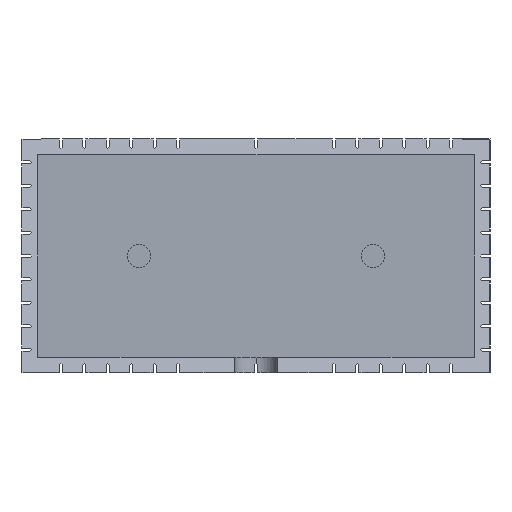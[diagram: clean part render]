
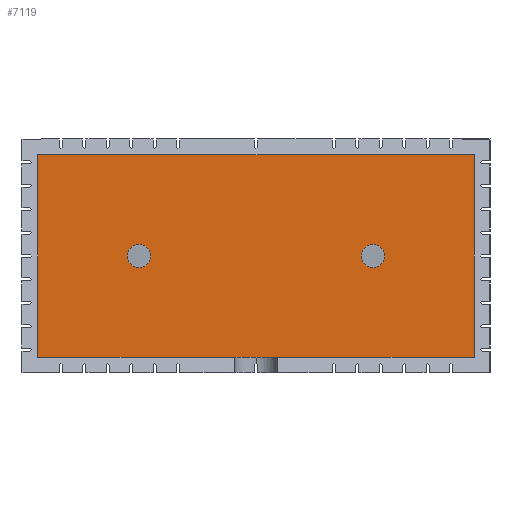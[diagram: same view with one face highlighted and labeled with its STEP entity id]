
A CAD part, left-side view. The second image highlights one B-rep face of the part: STEP entity #7119.
In plain terms, the highlighted planar face has unit normal (-1, 0, 0).
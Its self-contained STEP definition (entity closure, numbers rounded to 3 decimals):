
#162 = ORIENTED_EDGE ( 'NONE', *, *, #829, .F. ) ;
#199 = FACE_OUTER_BOUND ( 'NONE', #6317, .T. ) ;
#424 = CIRCLE ( 'NONE', #6278, 1.5 ) ;
#521 = EDGE_CURVE ( 'NONE', #874, #2198, #2855, .T. ) ;
#558 = AXIS2_PLACEMENT_3D ( 'NONE', #6222, #4038, #2862 ) ;
#609 = LINE ( 'NONE', #6781, #1950 ) ;
#642 = DIRECTION ( 'NONE',  ( 0., 1., 0. ) ) ;
#706 = LINE ( 'NONE', #2960, #7096 ) ;
#829 = EDGE_CURVE ( 'NONE', #1274, #2858, #2152, .T. ) ;
#874 = VERTEX_POINT ( 'NONE', #5446 ) ;
#1000 = CARTESIAN_POINT ( 'NONE',  ( -103.834, 28., -13. ) ) ;
#1274 = VERTEX_POINT ( 'NONE', #5517 ) ;
#1538 = VERTEX_POINT ( 'NONE', #1851 ) ;
#1851 = CARTESIAN_POINT ( 'NONE',  ( -103.834, -15., 1.5 ) ) ;
#1950 = VECTOR ( 'NONE', #2287, 1000. ) ;
#2126 = ORIENTED_EDGE ( 'NONE', *, *, #4321, .T. ) ;
#2152 = CIRCLE ( 'NONE', #6617, 1.5 ) ;
#2198 = VERTEX_POINT ( 'NONE', #2315 ) ;
#2221 = CARTESIAN_POINT ( 'NONE',  ( -103.834, 15., -1.5 ) ) ;
#2222 = ORIENTED_EDGE ( 'NONE', *, *, #5548, .F. ) ;
#2287 = DIRECTION ( 'NONE',  ( 0., 0., -1. ) ) ;
#2304 = EDGE_LOOP ( 'NONE', ( #5979, #2222 ) ) ;
#2315 = CARTESIAN_POINT ( 'NONE',  ( -103.834, 28., 13. ) ) ;
#2322 = CARTESIAN_POINT ( 'NONE',  ( -103.834, 0., 13. ) ) ;
#2324 = ORIENTED_EDGE ( 'NONE', *, *, #6111, .F. ) ;
#2696 = DIRECTION ( 'NONE',  ( -1., 0., 0. ) ) ;
#2855 = LINE ( 'NONE', #2322, #3700 ) ;
#2858 = VERTEX_POINT ( 'NONE', #2221 ) ;
#2862 = DIRECTION ( 'NONE',  ( 0., 0., -1. ) ) ;
#2960 = CARTESIAN_POINT ( 'NONE',  ( -103.834, 28., 13. ) ) ;
#3070 = DIRECTION ( 'NONE',  ( 0., 0., -1. ) ) ;
#3075 = DIRECTION ( 'NONE',  ( 1., 0., 0. ) ) ;
#3272 = EDGE_CURVE ( 'NONE', #874, #3352, #609, .T. ) ;
#3322 = CARTESIAN_POINT ( 'NONE',  ( -103.834, -28., -13. ) ) ;
#3352 = VERTEX_POINT ( 'NONE', #3322 ) ;
#3620 = CARTESIAN_POINT ( 'NONE',  ( -103.834, 0., 0. ) ) ;
#3700 = VECTOR ( 'NONE', #642, 1000. ) ;
#3719 = ORIENTED_EDGE ( 'NONE', *, *, #7230, .T. ) ;
#3726 = PLANE ( 'NONE',  #6538 ) ;
#3935 = CARTESIAN_POINT ( 'NONE',  ( -103.834, -15., -1.5 ) ) ;
#3964 = CIRCLE ( 'NONE', #5601, 1.5 ) ;
#4038 = DIRECTION ( 'NONE',  ( -1., 0., 0. ) ) ;
#4228 = DIRECTION ( 'NONE',  ( 0., 0., -1. ) ) ;
#4299 = CARTESIAN_POINT ( 'NONE',  ( -103.834, 15., 0. ) ) ;
#4321 = EDGE_CURVE ( 'NONE', #2198, #6725, #706, .T. ) ;
#4609 = VERTEX_POINT ( 'NONE', #3935 ) ;
#4857 = CARTESIAN_POINT ( 'NONE',  ( -103.834, 28., -13. ) ) ;
#4901 = CIRCLE ( 'NONE', #558, 1.5 ) ;
#4936 = LINE ( 'NONE', #4857, #6665 ) ;
#5263 = EDGE_CURVE ( 'NONE', #4609, #1538, #424, .T. ) ;
#5384 = FACE_BOUND ( 'NONE', #2304, .T. ) ;
#5394 = DIRECTION ( 'NONE',  ( 0., 0., -1. ) ) ;
#5446 = CARTESIAN_POINT ( 'NONE',  ( -103.834, -28., 13. ) ) ;
#5471 = ORIENTED_EDGE ( 'NONE', *, *, #521, .T. ) ;
#5517 = CARTESIAN_POINT ( 'NONE',  ( -103.834, 15., 1.5 ) ) ;
#5548 = EDGE_CURVE ( 'NONE', #1538, #4609, #3964, .T. ) ;
#5560 = DIRECTION ( 'NONE',  ( 0., 0., -1. ) ) ;
#5601 = AXIS2_PLACEMENT_3D ( 'NONE', #6430, #7076, #3070 ) ;
#5660 = DIRECTION ( 'NONE',  ( 0., 0., -1. ) ) ;
#5700 = ORIENTED_EDGE ( 'NONE', *, *, #3272, .F. ) ;
#5930 = DIRECTION ( 'NONE',  ( -1., 0., 0. ) ) ;
#5979 = ORIENTED_EDGE ( 'NONE', *, *, #5263, .F. ) ;
#5988 = DIRECTION ( 'NONE',  ( 0., -1., 0. ) ) ;
#6111 = EDGE_CURVE ( 'NONE', #2858, #1274, #4901, .T. ) ;
#6222 = CARTESIAN_POINT ( 'NONE',  ( -103.834, 15., 0. ) ) ;
#6278 = AXIS2_PLACEMENT_3D ( 'NONE', #6616, #5930, #5394 ) ;
#6317 = EDGE_LOOP ( 'NONE', ( #3719, #5700, #5471, #2126 ) ) ;
#6430 = CARTESIAN_POINT ( 'NONE',  ( -103.834, -15., 0. ) ) ;
#6538 = AXIS2_PLACEMENT_3D ( 'NONE', #3620, #3075, #4228 ) ;
#6616 = CARTESIAN_POINT ( 'NONE',  ( -103.834, -15., 0. ) ) ;
#6617 = AXIS2_PLACEMENT_3D ( 'NONE', #4299, #2696, #5560 ) ;
#6665 = VECTOR ( 'NONE', #5988, 1000. ) ;
#6725 = VERTEX_POINT ( 'NONE', #1000 ) ;
#6781 = CARTESIAN_POINT ( 'NONE',  ( -103.834, -28., 0. ) ) ;
#6826 = EDGE_LOOP ( 'NONE', ( #2324, #162 ) ) ;
#6976 = FACE_BOUND ( 'NONE', #6826, .T. ) ;
#7076 = DIRECTION ( 'NONE',  ( -1., 0., 0. ) ) ;
#7096 = VECTOR ( 'NONE', #5660, 1000. ) ;
#7119 = ADVANCED_FACE ( 'NONE', ( #199, #6976, #5384 ), #3726, .F. ) ;
#7230 = EDGE_CURVE ( 'NONE', #6725, #3352, #4936, .T. ) ;
